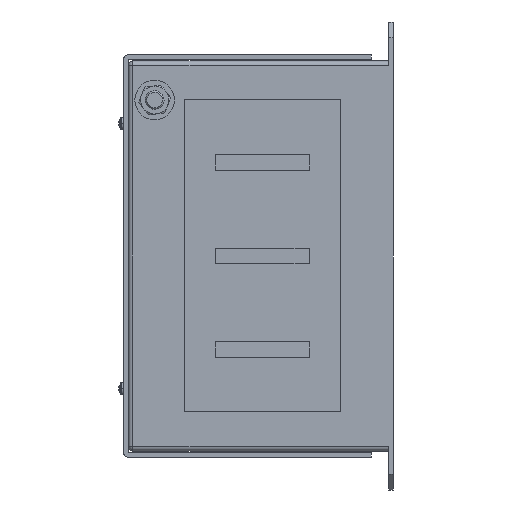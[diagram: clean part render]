
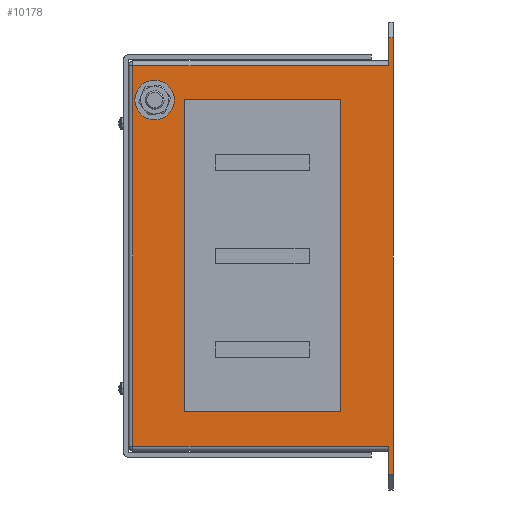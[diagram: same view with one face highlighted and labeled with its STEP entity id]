
A CAD part, left-side view. The second image highlights one B-rep face of the part: STEP entity #10178.
In plain terms, the highlighted planar face has unit normal (-1, 0, 0).
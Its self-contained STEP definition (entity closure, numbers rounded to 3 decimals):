
#4900 = CARTESIAN_POINT ( 'NONE',  ( 0., 153., 243. ) ) ;
#4901 = CARTESIAN_POINT ( 'NONE',  ( 0., 153., 257. ) ) ;
#4902 = DIRECTION ( 'NONE',  ( 0., 0., -1. ) ) ;
#4903 = DIRECTION ( 'NONE',  ( 1., 0., 0. ) ) ;
#4904 = CARTESIAN_POINT ( 'NONE',  ( 0., 153., 250. ) ) ;
#4905 = AXIS2_PLACEMENT_3D ( 'NONE', #4904, #4903, #4902 ) ;
#4910 = CIRCLE ( 'NONE', #4905, 7. ) ;
#5000 = CARTESIAN_POINT ( 'NONE',  ( 0., 3., 28. ) ) ;
#5044 = DIRECTION ( 'NONE',  ( 0., 1., 0. ) ) ;
#5045 = VECTOR ( 'NONE', #5044, 1000. ) ;
#5046 = CARTESIAN_POINT ( 'NONE',  ( 0., 3., 50. ) ) ;
#5047 = LINE ( 'NONE', #5046, #5045 ) ;
#5049 = CARTESIAN_POINT ( 'NONE',  ( 0., 34., 50. ) ) ;
#5050 = DIRECTION ( 'NONE',  ( 0., 0., -1. ) ) ;
#5051 = VECTOR ( 'NONE', #5050, 1000. ) ;
#5052 = CARTESIAN_POINT ( 'NONE',  ( 0., 34., 0. ) ) ;
#5053 = LINE ( 'NONE', #5052, #5051 ) ;
#5054 = CARTESIAN_POINT ( 'NONE',  ( 0., 167., 272. ) ) ;
#5078 = DIRECTION ( 'NONE',  ( 0., 0., -1. ) ) ;
#5079 = DIRECTION ( 'NONE',  ( 1., 0., 0. ) ) ;
#5080 = CARTESIAN_POINT ( 'NONE',  ( 0., 3., 0. ) ) ;
#5081 = AXIS2_PLACEMENT_3D ( 'NONE', #5080, #5079, #5078 ) ;
#5082 = PLANE ( 'NONE',  #5081 ) ;
#5084 = FACE_OUTER_BOUND ( 'NONE', #10166, .T. ) ;
#5085 = FACE_BOUND ( 'NONE', #10162, .T. ) ;
#5086 = FACE_BOUND ( 'NONE', #10179, .T. ) ;
#5098 = CARTESIAN_POINT ( 'NONE',  ( 0., 0., 10. ) ) ;
#5099 = CARTESIAN_POINT ( 'NONE',  ( 0., 167., 28. ) ) ;
#5100 = DIRECTION ( 'NONE',  ( 0., -1., 0. ) ) ;
#5101 = VECTOR ( 'NONE', #5100, 1000. ) ;
#5102 = CARTESIAN_POINT ( 'NONE',  ( 0., 3., 28. ) ) ;
#5103 = LINE ( 'NONE', #5102, #5101 ) ;
#5104 = DIRECTION ( 'NONE',  ( 0., 0., -1. ) ) ;
#5105 = DIRECTION ( 'NONE',  ( 1., 0., 0. ) ) ;
#5106 = CARTESIAN_POINT ( 'NONE',  ( 0., 153., 250. ) ) ;
#5107 = AXIS2_PLACEMENT_3D ( 'NONE', #5106, #5105, #5104 ) ;
#5108 = CIRCLE ( 'NONE', #5107, 7. ) ;
#5113 = DIRECTION ( 'NONE',  ( 0., 0., 1. ) ) ;
#5114 = VECTOR ( 'NONE', #5113, 1000. ) ;
#5115 = CARTESIAN_POINT ( 'NONE',  ( 0., 3., 0. ) ) ;
#5116 = LINE ( 'NONE', #5115, #5114 ) ;
#5117 = CARTESIAN_POINT ( 'NONE',  ( 0., 3., 10. ) ) ;
#5132 = CARTESIAN_POINT ( 'NONE',  ( 0., 34., 250. ) ) ;
#5133 = DIRECTION ( 'NONE',  ( 0., -1., 0. ) ) ;
#5134 = VECTOR ( 'NONE', #5133, 1000. ) ;
#5135 = CARTESIAN_POINT ( 'NONE',  ( 0., 3., 250. ) ) ;
#5136 = LINE ( 'NONE', #5135, #5134 ) ;
#5137 = CARTESIAN_POINT ( 'NONE',  ( 0., 134., 250. ) ) ;
#5138 = CARTESIAN_POINT ( 'NONE',  ( 0., 134., 50. ) ) ;
#5139 = DIRECTION ( 'NONE',  ( 0., 0., 1. ) ) ;
#5140 = VECTOR ( 'NONE', #5139, 1000. ) ;
#5141 = CARTESIAN_POINT ( 'NONE',  ( 0., 134., 0. ) ) ;
#5142 = LINE ( 'NONE', #5141, #5140 ) ;
#5147 = DIRECTION ( 'NONE',  ( 0., 0., -1. ) ) ;
#5148 = VECTOR ( 'NONE', #5147, 1000. ) ;
#5149 = CARTESIAN_POINT ( 'NONE',  ( 0., 167., 0. ) ) ;
#5150 = LINE ( 'NONE', #5149, #5148 ) ;
#5175 = CARTESIAN_POINT ( 'NONE',  ( 0., 0., 290. ) ) ;
#5176 = DIRECTION ( 'NONE',  ( 0., 0., 1. ) ) ;
#5177 = VECTOR ( 'NONE', #5176, 1000. ) ;
#5178 = CARTESIAN_POINT ( 'NONE',  ( 0., 0., 0. ) ) ;
#5179 = LINE ( 'NONE', #5178, #5177 ) ;
#5180 = DIRECTION ( 'NONE',  ( 0., -1., 0. ) ) ;
#5181 = VECTOR ( 'NONE', #5180, 1000. ) ;
#5182 = CARTESIAN_POINT ( 'NONE',  ( 0., 3., 10. ) ) ;
#5183 = LINE ( 'NONE', #5182, #5181 ) ;
#5224 = DIRECTION ( 'NONE',  ( 0., 1., 0. ) ) ;
#5225 = VECTOR ( 'NONE', #5224, 1000. ) ;
#5226 = CARTESIAN_POINT ( 'NONE',  ( 0., 3., 272. ) ) ;
#5227 = LINE ( 'NONE', #5226, #5225 ) ;
#5228 = CARTESIAN_POINT ( 'NONE',  ( 0., 3., 272. ) ) ;
#5229 = DIRECTION ( 'NONE',  ( 0., 0., 1. ) ) ;
#5230 = VECTOR ( 'NONE', #5229, 1000. ) ;
#5231 = CARTESIAN_POINT ( 'NONE',  ( 0., 3., 0. ) ) ;
#5232 = LINE ( 'NONE', #5231, #5230 ) ;
#5233 = CARTESIAN_POINT ( 'NONE',  ( 0., 3., 290. ) ) ;
#5234 = DIRECTION ( 'NONE',  ( 0., 1., 0. ) ) ;
#5235 = VECTOR ( 'NONE', #5234, 1000. ) ;
#5236 = CARTESIAN_POINT ( 'NONE',  ( 0., 3., 290. ) ) ;
#5237 = LINE ( 'NONE', #5236, #5235 ) ;
#10065 = EDGE_CURVE ( 'NONE', #10066, #10067, #4910, .T. ) ;
#10066 = VERTEX_POINT ( 'NONE', #4901 ) ;
#10067 = VERTEX_POINT ( 'NONE', #4900 ) ;
#10112 = VERTEX_POINT ( 'NONE', #5000 ) ;
#10155 = VERTEX_POINT ( 'NONE', #5054 ) ;
#10157 = ORIENTED_EDGE ( 'NONE', *, *, #10158, .T. ) ;
#10158 = EDGE_CURVE ( 'NONE', #10186, #10159, #5053, .T. ) ;
#10159 = VERTEX_POINT ( 'NONE', #5049 ) ;
#10160 = ORIENTED_EDGE ( 'NONE', *, *, #10161, .T. ) ;
#10161 = EDGE_CURVE ( 'NONE', #10159, #10182, #5047, .T. ) ;
#10162 = EDGE_LOOP ( 'NONE', ( #10163, #10165 ) ) ;
#10163 = ORIENTED_EDGE ( 'NONE', *, *, #10164, .T. ) ;
#10164 = EDGE_CURVE ( 'NONE', #10067, #10066, #5108, .T. ) ;
#10165 = ORIENTED_EDGE ( 'NONE', *, *, #10065, .T. ) ;
#10166 = EDGE_LOOP ( 'NONE', ( #10167, #10170, #10229, #10231, #10234, #10237, #10240, #10214 ) ) ;
#10167 = ORIENTED_EDGE ( 'NONE', *, *, #10168, .T. ) ;
#10168 = EDGE_CURVE ( 'NONE', #10169, #10112, #5103, .T. ) ;
#10169 = VERTEX_POINT ( 'NONE', #5099 ) ;
#10170 = ORIENTED_EDGE ( 'NONE', *, *, #10197, .F. ) ;
#10171 = VERTEX_POINT ( 'NONE', #5098 ) ;
#10178 = ADVANCED_FACE ( 'NONE', ( #5086, #5085, #5084 ), #5082, .F. ) ;
#10179 = EDGE_LOOP ( 'NONE', ( #10180, #10184, #10157, #10160 ) ) ;
#10180 = ORIENTED_EDGE ( 'NONE', *, *, #10181, .T. ) ;
#10181 = EDGE_CURVE ( 'NONE', #10182, #10183, #5142, .T. ) ;
#10182 = VERTEX_POINT ( 'NONE', #5138 ) ;
#10183 = VERTEX_POINT ( 'NONE', #5137 ) ;
#10184 = ORIENTED_EDGE ( 'NONE', *, *, #10185, .T. ) ;
#10185 = EDGE_CURVE ( 'NONE', #10183, #10186, #5136, .T. ) ;
#10186 = VERTEX_POINT ( 'NONE', #5132 ) ;
#10195 = VERTEX_POINT ( 'NONE', #5117 ) ;
#10197 = EDGE_CURVE ( 'NONE', #10195, #10112, #5116, .T. ) ;
#10214 = ORIENTED_EDGE ( 'NONE', *, *, #10215, .T. ) ;
#10215 = EDGE_CURVE ( 'NONE', #10155, #10169, #5150, .T. ) ;
#10229 = ORIENTED_EDGE ( 'NONE', *, *, #10230, .T. ) ;
#10230 = EDGE_CURVE ( 'NONE', #10195, #10171, #5183, .T. ) ;
#10231 = ORIENTED_EDGE ( 'NONE', *, *, #10232, .T. ) ;
#10232 = EDGE_CURVE ( 'NONE', #10171, #10233, #5179, .T. ) ;
#10233 = VERTEX_POINT ( 'NONE', #5175 ) ;
#10234 = ORIENTED_EDGE ( 'NONE', *, *, #10235, .T. ) ;
#10235 = EDGE_CURVE ( 'NONE', #10233, #10236, #5237, .T. ) ;
#10236 = VERTEX_POINT ( 'NONE', #5233 ) ;
#10237 = ORIENTED_EDGE ( 'NONE', *, *, #10238, .F. ) ;
#10238 = EDGE_CURVE ( 'NONE', #10239, #10236, #5232, .T. ) ;
#10239 = VERTEX_POINT ( 'NONE', #5228 ) ;
#10240 = ORIENTED_EDGE ( 'NONE', *, *, #10241, .T. ) ;
#10241 = EDGE_CURVE ( 'NONE', #10239, #10155, #5227, .T. ) ;
